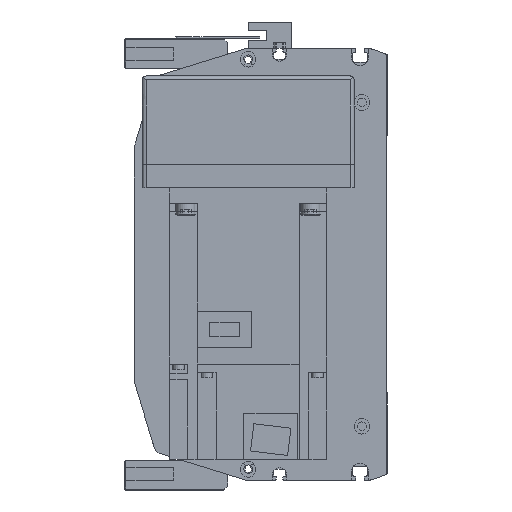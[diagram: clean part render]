
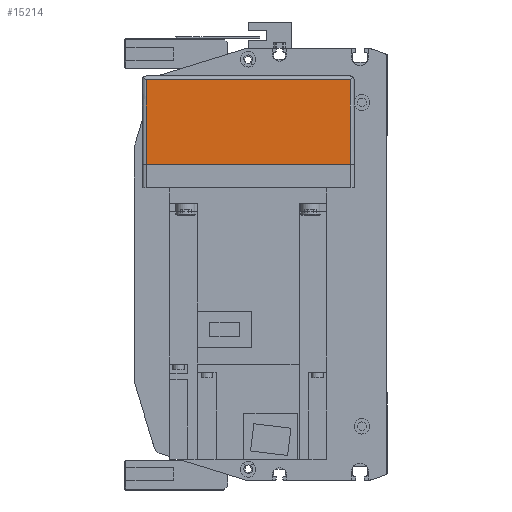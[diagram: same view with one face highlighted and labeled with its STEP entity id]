
A CAD part, left-side view. The second image highlights one B-rep face of the part: STEP entity #15214.
In plain terms, the highlighted planar face has unit normal (-1, 0, 0).
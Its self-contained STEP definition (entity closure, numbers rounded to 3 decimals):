
#2576=ORIENTED_EDGE('',*,*,#6188,.T.);
#2577=ORIENTED_EDGE('',*,*,#6116,.T.);
#2578=ORIENTED_EDGE('',*,*,#6189,.F.);
#2579=ORIENTED_EDGE('',*,*,#6128,.F.);
#6116=EDGE_CURVE('',#8068,#8071,#9646,.T.);
#6128=EDGE_CURVE('',#8078,#8080,#9651,.T.);
#6188=EDGE_CURVE('',#8078,#8068,#9693,.T.);
#6189=EDGE_CURVE('',#8080,#8071,#9694,.T.);
#8068=VERTEX_POINT('',#23677);
#8071=VERTEX_POINT('',#23683);
#8078=VERTEX_POINT('',#23706);
#8080=VERTEX_POINT('',#23709);
#9646=LINE('',#23684,#11001);
#9651=LINE('',#23708,#11006);
#9693=LINE('',#23832,#11048);
#9694=LINE('',#23833,#11049);
#11001=VECTOR('',#18895,1000.);
#11006=VECTOR('',#18922,1000.);
#11048=VECTOR('',#19042,1000.);
#11049=VECTOR('',#19043,1000.);
#12213=EDGE_LOOP('',(#2576,#2577,#2578,#2579));
#13472=FACE_BOUND('',#12213,.T.);
#14569=PLANE('',#16339);
#15214=ADVANCED_FACE('',(#13472),#14569,.T.);
#16339=AXIS2_PLACEMENT_3D('',#23831,#19040,#19041);
#18895=DIRECTION('',(0.,0.,1.));
#18922=DIRECTION('',(0.,0.,1.));
#19040=DIRECTION('',(-1.,0.,0.));
#19041=DIRECTION('',(0.,0.,1.));
#19042=DIRECTION('',(0.,-1.,0.));
#19043=DIRECTION('',(0.,-1.,0.));
#23677=CARTESIAN_POINT('',(-230.,-52.,-55.));
#23683=CARTESIAN_POINT('',(-230.,-52.,-12.));
#23684=CARTESIAN_POINT('',(-230.,-52.,-57.));
#23706=CARTESIAN_POINT('',(-230.,52.,-55.));
#23708=CARTESIAN_POINT('',(-230.,52.,-57.));
#23709=CARTESIAN_POINT('',(-230.,52.,-12.));
#23831=CARTESIAN_POINT('',(-230.,52.,-57.));
#23832=CARTESIAN_POINT('',(-230.,54.,-55.));
#23833=CARTESIAN_POINT('',(-230.,52.,-12.));
